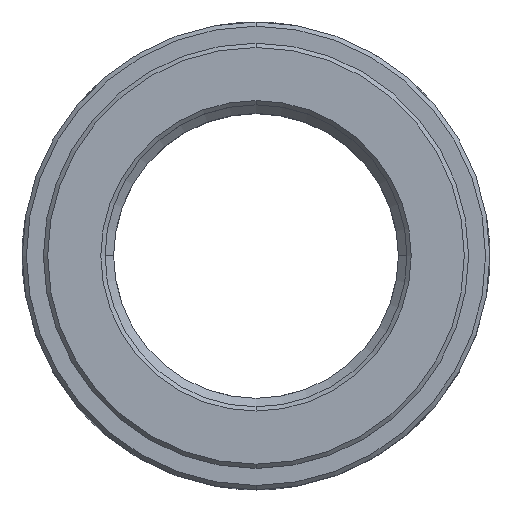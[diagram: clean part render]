
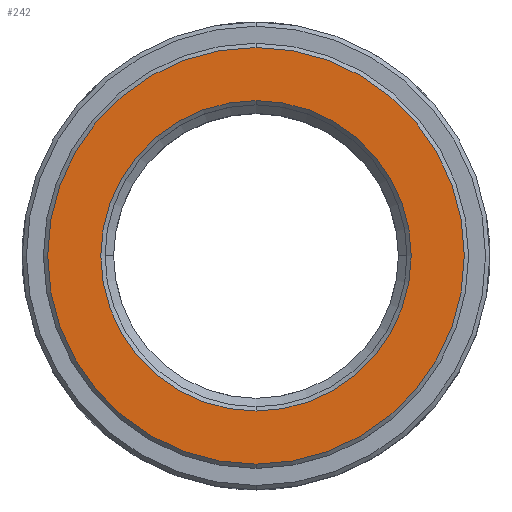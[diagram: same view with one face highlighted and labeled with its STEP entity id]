
A CAD part, top view. The second image highlights one B-rep face of the part: STEP entity #242.
In plain terms, the highlighted planar face has unit normal (0, 0, 1).
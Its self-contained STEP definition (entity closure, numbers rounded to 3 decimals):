
#111 = EDGE_LOOP ( 'NONE', ( #240, #241 ) ) ;
#114 = EDGE_LOOP ( 'NONE', ( #406, #407 ) ) ;
#240 = ORIENTED_EDGE ( 'NONE', *, *, #1759, .T. ) ;
#241 = ORIENTED_EDGE ( 'NONE', *, *, #243, .T. ) ;
#242 = ADVANCED_FACE ( 'NONE', ( #1075, #1073 ), #1054, .F. ) ;
#243 = EDGE_CURVE ( 'NONE', #1773, #1665, #1162, .T. ) ;
#246 = EDGE_CURVE ( 'NONE', #1677, #1676, #1152, .T. ) ;
#406 = ORIENTED_EDGE ( 'NONE', *, *, #246, .T. ) ;
#407 = ORIENTED_EDGE ( 'NONE', *, *, #1770, .T. ) ;
#1054 = PLANE ( 'NONE',  #1079 ) ;
#1066 = CARTESIAN_POINT ( 'NONE',  ( 0., 25., 11. ) ) ;
#1067 = AXIS2_PLACEMENT_3D ( 'NONE', #1151, #1150, #1149 ) ;
#1073 = FACE_OUTER_BOUND ( 'NONE', #114, .T. ) ;
#1074 = DIRECTION ( 'NONE',  ( 0., 0., -1. ) ) ;
#1075 = FACE_BOUND ( 'NONE', #111, .T. ) ;
#1079 = AXIS2_PLACEMENT_3D ( 'NONE', #1066, #1074, #1164 ) ;
#1149 = DIRECTION ( 'NONE',  ( 0., 1., 0. ) ) ;
#1150 = DIRECTION ( 'NONE',  ( 0., 0., 1. ) ) ;
#1151 = CARTESIAN_POINT ( 'NONE',  ( 0., 0., 11. ) ) ;
#1152 = CIRCLE ( 'NONE', #1067, 24.5 ) ;
#1158 = DIRECTION ( 'NONE',  ( 0., 1., 0. ) ) ;
#1159 = DIRECTION ( 'NONE',  ( 0., 0., -1. ) ) ;
#1160 = CARTESIAN_POINT ( 'NONE',  ( 0., 0., 11. ) ) ;
#1161 = AXIS2_PLACEMENT_3D ( 'NONE', #1160, #1159, #1158 ) ;
#1162 = CIRCLE ( 'NONE', #1161, 18.25 ) ;
#1164 = DIRECTION ( 'NONE',  ( 0., 1., 0. ) ) ;
#1665 = VERTEX_POINT ( 'NONE', #2320 ) ;
#1676 = VERTEX_POINT ( 'NONE', #2319 ) ;
#1677 = VERTEX_POINT ( 'NONE', #2305 ) ;
#1759 = EDGE_CURVE ( 'NONE', #1665, #1773, #2073, .T. ) ;
#1770 = EDGE_CURVE ( 'NONE', #1676, #1677, #2089, .T. ) ;
#1773 = VERTEX_POINT ( 'NONE', #2142 ) ;
#2030 = DIRECTION ( 'NONE',  ( 0., 1., 0. ) ) ;
#2031 = DIRECTION ( 'NONE',  ( 0., 0., -1. ) ) ;
#2032 = CARTESIAN_POINT ( 'NONE',  ( 0., 0., 11. ) ) ;
#2072 = AXIS2_PLACEMENT_3D ( 'NONE', #2032, #2031, #2030 ) ;
#2073 = CIRCLE ( 'NONE', #2072, 18.25 ) ;
#2087 = DIRECTION ( 'NONE',  ( 0., 1., 0. ) ) ;
#2088 = DIRECTION ( 'NONE',  ( 0., 0., 1. ) ) ;
#2089 = CIRCLE ( 'NONE', #2147, 24.5 ) ;
#2104 = CARTESIAN_POINT ( 'NONE',  ( 0., 0., 11. ) ) ;
#2142 = CARTESIAN_POINT ( 'NONE',  ( 0., 18.25, 11. ) ) ;
#2147 = AXIS2_PLACEMENT_3D ( 'NONE', #2104, #2088, #2087 ) ;
#2305 = CARTESIAN_POINT ( 'NONE',  ( 0., 24.5, 11. ) ) ;
#2319 = CARTESIAN_POINT ( 'NONE',  ( 0., -24.5, 11. ) ) ;
#2320 = CARTESIAN_POINT ( 'NONE',  ( 0., -18.25, 11. ) ) ;
